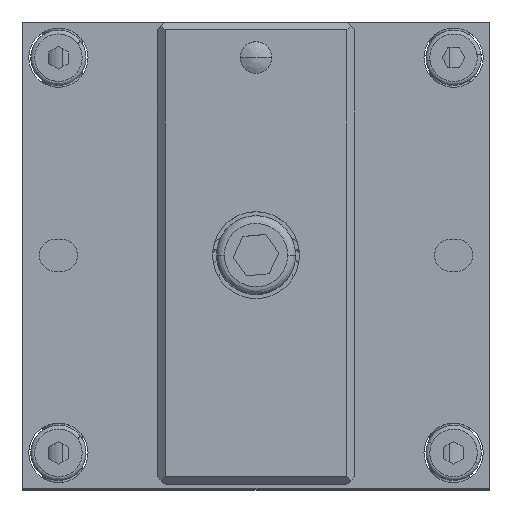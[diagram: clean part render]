
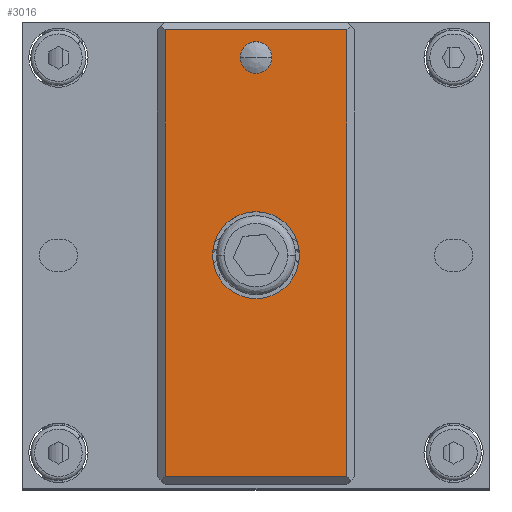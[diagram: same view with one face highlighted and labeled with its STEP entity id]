
A CAD part, top view. The second image highlights one B-rep face of the part: STEP entity #3016.
In plain terms, the highlighted planar face has unit normal (0, 0, -1).
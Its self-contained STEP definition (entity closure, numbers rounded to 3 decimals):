
#147 = CARTESIAN_POINT ( 'NONE',  ( 0., 25., 55. ) ) ;
#158 = CARTESIAN_POINT ( 'NONE',  ( -2., 25., 55. ) ) ;
#161 = CARTESIAN_POINT ( 'NONE',  ( -11.5, 29.5, 55. ) ) ;
#816 = VERTEX_POINT ( 'NONE', #1943 ) ;
#968 = CIRCLE ( 'NONE', #5155, 2. ) ;
#984 = AXIS2_PLACEMENT_3D ( 'NONE', #7700, #7843, #1253 ) ;
#1253 = DIRECTION ( 'NONE',  ( 0., -1., 0. ) ) ;
#1279 = VERTEX_POINT ( 'NONE', #158 ) ;
#1442 = LINE ( 'NONE', #161, #9733 ) ;
#1586 = VERTEX_POINT ( 'NONE', #5671 ) ;
#1651 = ORIENTED_EDGE ( 'NONE', *, *, #5798, .T. ) ;
#1746 = DIRECTION ( 'NONE',  ( 1., 0., 0. ) ) ;
#1796 = LINE ( 'NONE', #9027, #2546 ) ;
#1943 = CARTESIAN_POINT ( 'NONE',  ( 11.5, -28., 55. ) ) ;
#2064 = AXIS2_PLACEMENT_3D ( 'NONE', #147, #2452, #1746 ) ;
#2267 = LINE ( 'NONE', #9917, #9057 ) ;
#2452 = DIRECTION ( 'NONE',  ( 0., 0., 1. ) ) ;
#2497 = EDGE_CURVE ( 'NONE', #8271, #5951, #4966, .T. ) ;
#2546 = VECTOR ( 'NONE', #5054, 1000. ) ;
#2745 = CIRCLE ( 'NONE', #4339, 5.5 ) ;
#3016 = ADVANCED_FACE ( 'NONE', ( #6460, #4448, #3677 ), #8779, .T. ) ;
#3057 = CARTESIAN_POINT ( 'NONE',  ( -11.5, 28.5, 55. ) ) ;
#3059 = CARTESIAN_POINT ( 'NONE',  ( 12.5, 29.5, 55. ) ) ;
#3320 = ORIENTED_EDGE ( 'NONE', *, *, #9892, .T. ) ;
#3478 = DIRECTION ( 'NONE',  ( -1., 0., 0. ) ) ;
#3527 = CARTESIAN_POINT ( 'NONE',  ( 12.5, 28.5, 55. ) ) ;
#3677 = FACE_OUTER_BOUND ( 'NONE', #8024, .T. ) ;
#4168 = CARTESIAN_POINT ( 'NONE',  ( 0., -5.5, 55. ) ) ;
#4339 = AXIS2_PLACEMENT_3D ( 'NONE', #7708, #5197, #4488 ) ;
#4421 = DIRECTION ( 'NONE',  ( 1., 0., 0. ) ) ;
#4448 = FACE_BOUND ( 'NONE', #8594, .T. ) ;
#4488 = DIRECTION ( 'NONE',  ( 0., -1., 0. ) ) ;
#4858 = EDGE_CURVE ( 'NONE', #1279, #1586, #968, .T. ) ;
#4966 = CIRCLE ( 'NONE', #984, 5.5 ) ;
#5016 = ORIENTED_EDGE ( 'NONE', *, *, #9820, .T. ) ;
#5054 = DIRECTION ( 'NONE',  ( 0., -1., 0. ) ) ;
#5155 = AXIS2_PLACEMENT_3D ( 'NONE', #6901, #5198, #6766 ) ;
#5197 = DIRECTION ( 'NONE',  ( 0., 0., 1. ) ) ;
#5198 = DIRECTION ( 'NONE',  ( 0., 0., 1. ) ) ;
#5567 = DIRECTION ( 'NONE',  ( -1., 0., 0. ) ) ;
#5592 = ORIENTED_EDGE ( 'NONE', *, *, #4858, .T. ) ;
#5671 = CARTESIAN_POINT ( 'NONE',  ( 2., 25., 55. ) ) ;
#5798 = EDGE_CURVE ( 'NONE', #9937, #9578, #1442, .T. ) ;
#5802 = CIRCLE ( 'NONE', #2064, 2. ) ;
#5906 = VECTOR ( 'NONE', #4421, 1000. ) ;
#5951 = VERTEX_POINT ( 'NONE', #6100 ) ;
#6100 = CARTESIAN_POINT ( 'NONE',  ( 0., 5.5, 55. ) ) ;
#6278 = DIRECTION ( 'NONE',  ( 0., 0., -1. ) ) ;
#6402 = EDGE_CURVE ( 'NONE', #9206, #816, #1796, .T. ) ;
#6460 = FACE_BOUND ( 'NONE', #7836, .T. ) ;
#6537 = LINE ( 'NONE', #3527, #5906 ) ;
#6766 = DIRECTION ( 'NONE',  ( 1., 0., 0. ) ) ;
#6901 = CARTESIAN_POINT ( 'NONE',  ( 0., 25., 55. ) ) ;
#7700 = CARTESIAN_POINT ( 'NONE',  ( 0., 0., 55. ) ) ;
#7708 = CARTESIAN_POINT ( 'NONE',  ( 0., 0., 55. ) ) ;
#7836 = EDGE_LOOP ( 'NONE', ( #9682, #5016 ) ) ;
#7843 = DIRECTION ( 'NONE',  ( 0., 0., 1. ) ) ;
#7859 = EDGE_CURVE ( 'NONE', #1586, #1279, #5802, .T. ) ;
#7943 = ORIENTED_EDGE ( 'NONE', *, *, #7974, .T. ) ;
#7974 = EDGE_CURVE ( 'NONE', #816, #9937, #2267, .T. ) ;
#8024 = EDGE_LOOP ( 'NONE', ( #3320, #9574, #7943, #1651 ) ) ;
#8172 = DIRECTION ( 'NONE',  ( 0., 1., 0. ) ) ;
#8211 = CARTESIAN_POINT ( 'NONE',  ( 11.5, 28.5, 55. ) ) ;
#8271 = VERTEX_POINT ( 'NONE', #4168 ) ;
#8594 = EDGE_LOOP ( 'NONE', ( #9031, #5592 ) ) ;
#8711 = AXIS2_PLACEMENT_3D ( 'NONE', #3059, #6278, #5567 ) ;
#8779 = PLANE ( 'NONE',  #8711 ) ;
#8969 = CARTESIAN_POINT ( 'NONE',  ( -11.5, -28., 55. ) ) ;
#9027 = CARTESIAN_POINT ( 'NONE',  ( 11.5, 29.5, 55. ) ) ;
#9031 = ORIENTED_EDGE ( 'NONE', *, *, #7859, .T. ) ;
#9057 = VECTOR ( 'NONE', #3478, 1000. ) ;
#9206 = VERTEX_POINT ( 'NONE', #8211 ) ;
#9574 = ORIENTED_EDGE ( 'NONE', *, *, #6402, .T. ) ;
#9578 = VERTEX_POINT ( 'NONE', #3057 ) ;
#9682 = ORIENTED_EDGE ( 'NONE', *, *, #2497, .T. ) ;
#9733 = VECTOR ( 'NONE', #8172, 1000. ) ;
#9820 = EDGE_CURVE ( 'NONE', #5951, #8271, #2745, .T. ) ;
#9892 = EDGE_CURVE ( 'NONE', #9578, #9206, #6537, .T. ) ;
#9917 = CARTESIAN_POINT ( 'NONE',  ( 12.5, -28., 55. ) ) ;
#9937 = VERTEX_POINT ( 'NONE', #8969 ) ;
